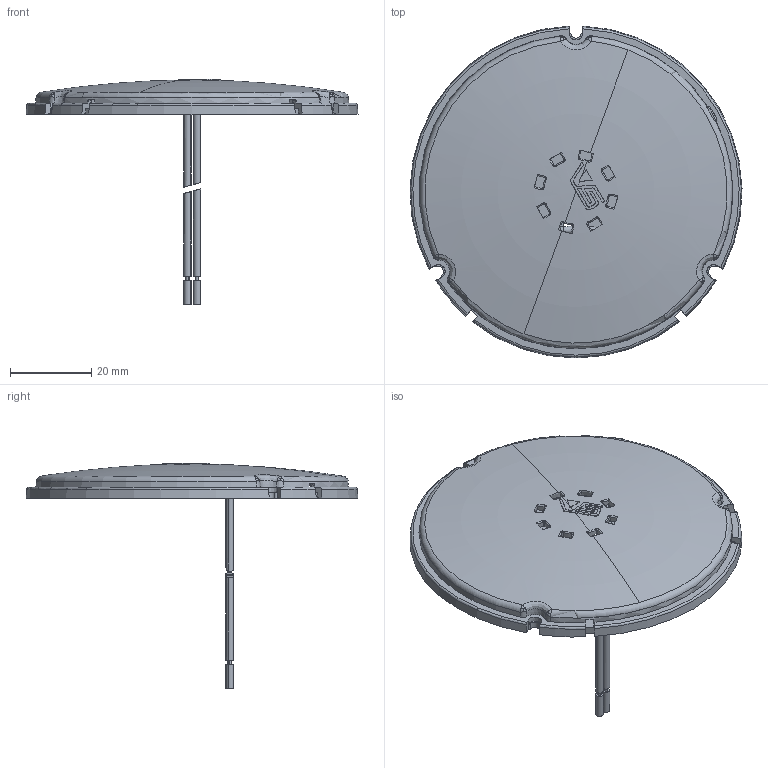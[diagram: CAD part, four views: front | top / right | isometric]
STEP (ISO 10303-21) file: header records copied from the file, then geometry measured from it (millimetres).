
FILE_DESCRIPTION(('Creo Elements/Direct Modeling STEP Export'),'2;1');
FILE_NAME('READYLINE_C08_REAR_CABLE_EXIT.stp','2015-01-16T15:13:06',(''),(''),'Creo Elements/Direct Modeling STEP processor for AP214 (Solid Model)','Creo Elements/Direct Modeling 18.1D 22-Jun-2013 (C) Parametric Technology GmbH','');
FILE_SCHEMA(('AUTOMOTIVE_DESIGN { 1 0 10303 214 1 1 1 1 }'));
Length unit declared in the file: millimetre
Products named in the file (8): cavo_4.1; cavo_3.1; cavo_2.1; cavo_1.1; g1; DIFFUSORE_D78; modulo; QDM
Assembly tree (7 placements, depth 3):
  QDM
    modulo
    DIFFUSORE_D78
    g1
      cavo_1.1
      cavo_2.1
      cavo_3.1
      cavo_4.1
Bounding box: 81.48 x 81.47 x 55.38 mm (x, y, z)
Volume: 17115.4 mm3; surface area: 23434.2 mm2
Topology: 6 solids, 6 shells, 1781 faces, 4837 edges, 3119 vertices
Faces by surface type: plane 1039, cylinder 365, extrusion 132, bspline 122, torus 49, sphere 41, cone 33
Entity records: 68122 total; most frequent: CARTESIAN_POINT 24686, ORIENTED_EDGE 9588, DIRECTION 7596, EDGE_CURVE 4794, VECTOR 3256, LINE 3124, VERTEX_POINT 3119, AXIS2_PLACEMENT_3D 2170
